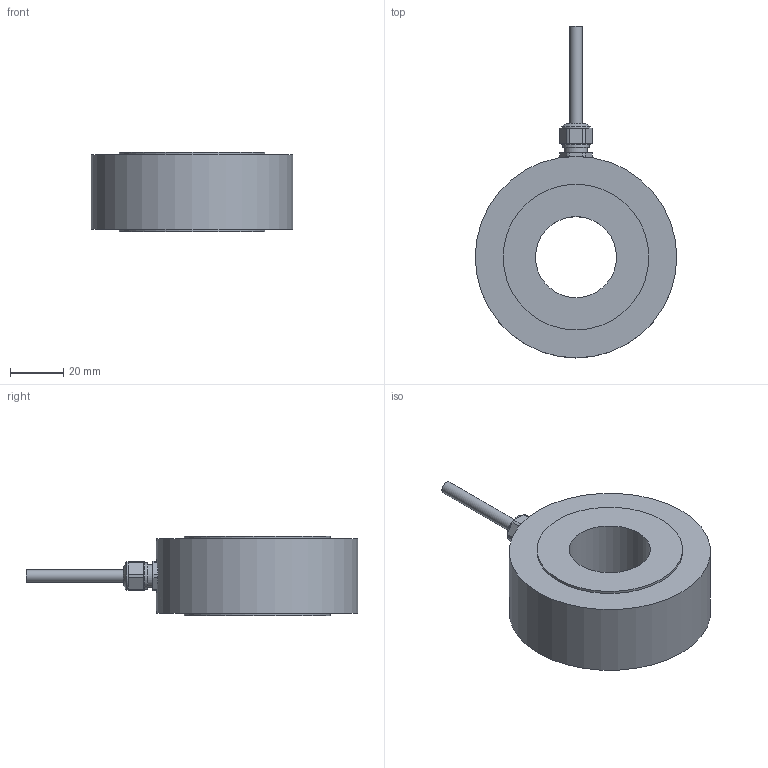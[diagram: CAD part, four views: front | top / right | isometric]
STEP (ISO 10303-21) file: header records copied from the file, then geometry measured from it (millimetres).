
FILE_DESCRIPTION(/* description */ (''),/* implementation_level */ '2;1');
FILE_NAME(/* name */ 'I:/New Datasheets/STEP Models/Pending models/CCG-360kN-003-000.step',/* time_stamp */ '2019-08-16T13:42:59+01:00',/* author */ (''),/* organization */ (''),/* preprocessor_version */ 'ST-DEVELOPER v18',/* originating_system */ 'Autodesk Translation Framework v8.6.0.1094',/* authorisation */ '');
FILE_SCHEMA (('AUTOMOTIVE_DESIGN { 1 0 10303 214 3 1 1 }'));
Length unit declared in the file: millimetre
Products named in the file (2): CCG-360kN-003-000 -; CCG-360kN-003-000
Assembly tree (1 placements, depth 2):
  CCG-360kN-003-000 -
    CCG-360kN-003-000
Bounding box: 75.9 x 125.03 x 30 mm (x, y, z)
Volume: 110885.5 mm3; surface area: 19460.8 mm2
Topology: 1 solids, 5 shells, 87 faces, 216 edges, 151 vertices
Faces by surface type: plane 34, cylinder 32, cone 12, torus 9
Full cylindrical faces by diameter (mm): 4.6 x2, 5.1 x1, 5.2 x1, 6.466 x2, 6.7 x1, 6.779 x2, 8.596 x1, 9 x1, 9.15 x1, 9.794 x1, 10.9 x2, 12.5 x1, 30.5 x1, 54.9 x2, 75.9 x1
Entity records: 2766 total; most frequent: CARTESIAN_POINT 515, DIRECTION 514, ORIENTED_EDGE 430, AXIS2_PLACEMENT_3D 223, EDGE_CURVE 215, VERTEX_POINT 151, CIRCLE 133, EDGE_LOOP 108
